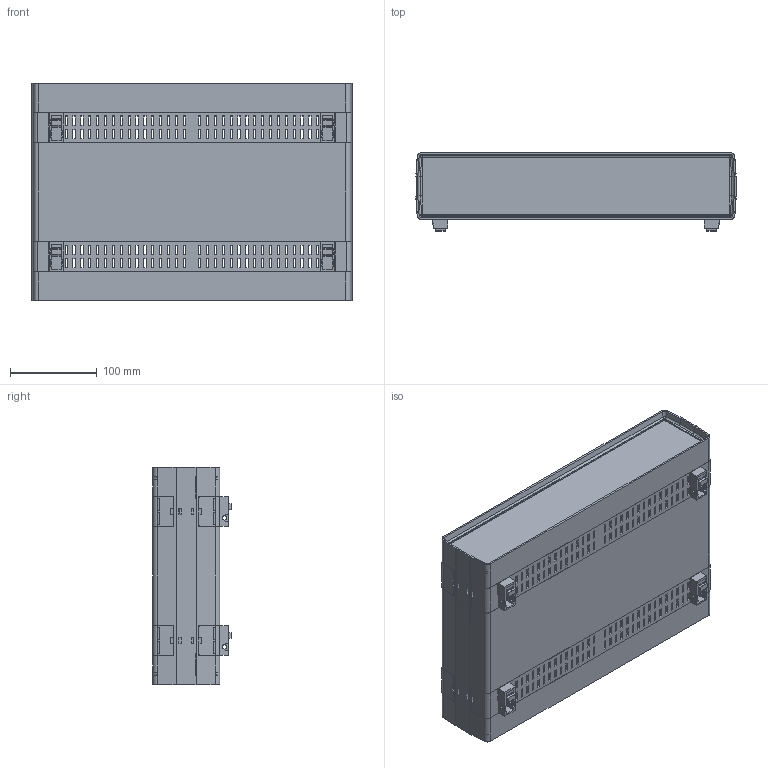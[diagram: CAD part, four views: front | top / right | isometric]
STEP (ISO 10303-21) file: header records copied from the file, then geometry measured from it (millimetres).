
FILE_DESCRIPTION (( 'STEP AP214' ), '1' );
FILE_NAME ('EM-15-V.STEP', '2020-09-14T22:46:46', ( 'Rudy' ), ( '' ), 'SwSTEP 2.0', 'SolidWorks 2014', '' );
FILE_SCHEMA (( 'AUTOMOTIVE_DESIGN' ));
Length unit declared in the file: inch
Products named in the file (7): Rubber foot; AET-020; AET-013; EPM-15; AET-001; 15 inch Euro Tech; EM-15-V
Assembly tree (14 placements, depth 2):
  EM-15-V
    15 inch Euro Tech  x2
    AET-001  x2
    EPM-15  x2
    AET-013  x2
    AET-020  x2
    Rubber foot  x4
Bounding box: 368.68 x 90.37 x 250.19 mm (x, y, z)
Volume: 962751.4 mm3; surface area: 851871.7 mm2
Topology: 26 solids, 26 shells, 7528 faces, 21432 edges, 14146 vertices
Faces by surface type: plane 6408, cylinder 684, cone 328, sphere 60, torus 48
Entity records: 121284 total; most frequent: CARTESIAN_POINT 22365, ORIENTED_EDGE 21144, DIRECTION 19018, EDGE_CURVE 10572, LINE 8882, VECTOR 8882, VERTEX_POINT 7009, AXIS2_PLACEMENT_3D 5068
